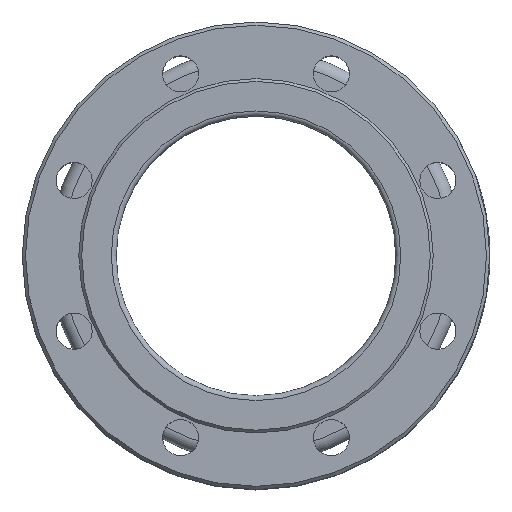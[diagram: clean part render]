
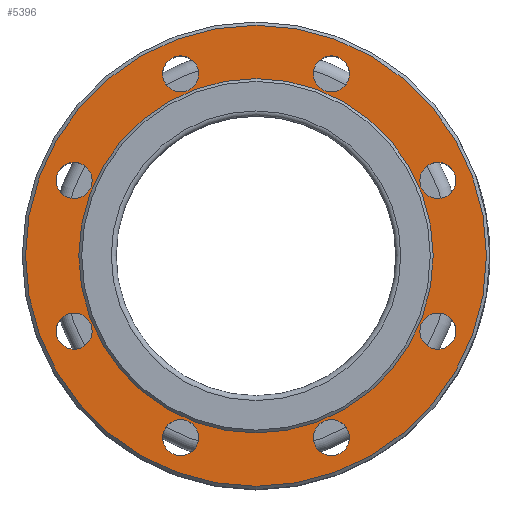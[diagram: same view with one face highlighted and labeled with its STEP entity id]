
A CAD part, top view. The second image highlights one B-rep face of the part: STEP entity #5396.
In plain terms, the highlighted planar face has unit normal (0, 0, 1).
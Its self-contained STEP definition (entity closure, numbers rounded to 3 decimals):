
#1085=FACE_BOUND('',#1690,.T.);
#1086=FACE_BOUND('',#1691,.T.);
#1087=FACE_BOUND('',#1692,.T.);
#1088=FACE_BOUND('',#1693,.T.);
#1089=FACE_BOUND('',#1694,.T.);
#1090=FACE_BOUND('',#1695,.T.);
#1091=FACE_BOUND('',#1696,.T.);
#1092=FACE_BOUND('',#1697,.T.);
#1093=FACE_BOUND('',#1698,.T.);
#1370=FACE_OUTER_BOUND('',#1689,.T.);
#1689=EDGE_LOOP('',(#4497));
#1690=EDGE_LOOP('',(#4498));
#1691=EDGE_LOOP('',(#4499));
#1692=EDGE_LOOP('',(#4500));
#1693=EDGE_LOOP('',(#4501));
#1694=EDGE_LOOP('',(#4502));
#1695=EDGE_LOOP('',(#4503));
#1696=EDGE_LOOP('',(#4504));
#1697=EDGE_LOOP('',(#4505));
#1698=EDGE_LOOP('',(#4506));
#1941=CIRCLE('',#5810,140.5);
#1942=CIRCLE('',#5813,108.);
#1943=CIRCLE('',#5814,11.);
#1944=CIRCLE('',#5815,11.);
#1945=CIRCLE('',#5816,11.);
#1946=CIRCLE('',#5817,11.);
#1947=CIRCLE('',#5818,11.);
#1948=CIRCLE('',#5819,11.);
#1949=CIRCLE('',#5820,11.);
#1950=CIRCLE('',#5821,11.);
#2451=VERTEX_POINT('',#11433);
#2452=VERTEX_POINT('',#11438);
#2453=VERTEX_POINT('',#11440);
#2454=VERTEX_POINT('',#11442);
#2455=VERTEX_POINT('',#11444);
#2456=VERTEX_POINT('',#11446);
#2457=VERTEX_POINT('',#11448);
#2458=VERTEX_POINT('',#11450);
#2459=VERTEX_POINT('',#11452);
#2460=VERTEX_POINT('',#11454);
#3143=EDGE_CURVE('',#2451,#2451,#1941,.T.);
#3145=EDGE_CURVE('',#2452,#2452,#1942,.T.);
#3146=EDGE_CURVE('',#2453,#2453,#1943,.T.);
#3147=EDGE_CURVE('',#2454,#2454,#1944,.T.);
#3148=EDGE_CURVE('',#2455,#2455,#1945,.T.);
#3149=EDGE_CURVE('',#2456,#2456,#1946,.T.);
#3150=EDGE_CURVE('',#2457,#2457,#1947,.T.);
#3151=EDGE_CURVE('',#2458,#2458,#1948,.T.);
#3152=EDGE_CURVE('',#2459,#2459,#1949,.T.);
#3153=EDGE_CURVE('',#2460,#2460,#1950,.T.);
#4497=ORIENTED_EDGE('',*,*,#3143,.T.);
#4498=ORIENTED_EDGE('',*,*,#3145,.T.);
#4499=ORIENTED_EDGE('',*,*,#3146,.F.);
#4500=ORIENTED_EDGE('',*,*,#3147,.F.);
#4501=ORIENTED_EDGE('',*,*,#3148,.F.);
#4502=ORIENTED_EDGE('',*,*,#3149,.F.);
#4503=ORIENTED_EDGE('',*,*,#3150,.F.);
#4504=ORIENTED_EDGE('',*,*,#3151,.F.);
#4505=ORIENTED_EDGE('',*,*,#3152,.F.);
#4506=ORIENTED_EDGE('',*,*,#3153,.F.);
#4782=PLANE('',#5812);
#5396=ADVANCED_FACE('',(#1370,#1085,#1086,#1087,#1088,#1089,#1090,#1091,
#1092,#1093),#4782,.F.);
#5810=AXIS2_PLACEMENT_3D('',#11434,#6928,#6929);
#5812=AXIS2_PLACEMENT_3D('',#11437,#6933,#6934);
#5813=AXIS2_PLACEMENT_3D('',#11439,#6935,#6936);
#5814=AXIS2_PLACEMENT_3D('',#11441,#6937,#6938);
#5815=AXIS2_PLACEMENT_3D('',#11443,#6939,#6940);
#5816=AXIS2_PLACEMENT_3D('',#11445,#6941,#6942);
#5817=AXIS2_PLACEMENT_3D('',#11447,#6943,#6944);
#5818=AXIS2_PLACEMENT_3D('',#11449,#6945,#6946);
#5819=AXIS2_PLACEMENT_3D('',#11451,#6947,#6948);
#5820=AXIS2_PLACEMENT_3D('',#11453,#6949,#6950);
#5821=AXIS2_PLACEMENT_3D('',#11455,#6951,#6952);
#6928=DIRECTION('center_axis',(0.,0.,1.));
#6929=DIRECTION('ref_axis',(0.,-1.,0.));
#6933=DIRECTION('center_axis',(0.,0.,-1.));
#6934=DIRECTION('ref_axis',(-1.,0.,0.));
#6935=DIRECTION('center_axis',(0.,0.,-1.));
#6936=DIRECTION('ref_axis',(1.,0.,0.));
#6937=DIRECTION('center_axis',(0.,0.,1.));
#6938=DIRECTION('ref_axis',(-1.,0.,0.));
#6939=DIRECTION('center_axis',(0.,0.,1.));
#6940=DIRECTION('ref_axis',(-1.,0.,0.));
#6941=DIRECTION('center_axis',(0.,0.,1.));
#6942=DIRECTION('ref_axis',(-1.,0.,0.));
#6943=DIRECTION('center_axis',(0.,0.,1.));
#6944=DIRECTION('ref_axis',(-1.,0.,0.));
#6945=DIRECTION('center_axis',(0.,0.,1.));
#6946=DIRECTION('ref_axis',(-1.,0.,0.));
#6947=DIRECTION('center_axis',(0.,0.,1.));
#6948=DIRECTION('ref_axis',(-1.,0.,0.));
#6949=DIRECTION('center_axis',(0.,0.,1.));
#6950=DIRECTION('ref_axis',(-1.,0.,0.));
#6951=DIRECTION('center_axis',(0.,0.,1.));
#6952=DIRECTION('ref_axis',(-1.,0.,0.));
#11433=CARTESIAN_POINT('',(0.,140.5,72.5));
#11434=CARTESIAN_POINT('Origin',(0.,0.,72.5));
#11437=CARTESIAN_POINT('Origin',(0.,85.25,72.5));
#11438=CARTESIAN_POINT('',(-108.,0.,72.5));
#11439=CARTESIAN_POINT('Origin',(0.,0.,72.5));
#11440=CARTESIAN_POINT('',(-34.922,-110.866,72.5));
#11441=CARTESIAN_POINT('Origin',(-45.922,-110.866,72.5));
#11442=CARTESIAN_POINT('',(121.866,-45.922,72.5));
#11443=CARTESIAN_POINT('Origin',(110.866,-45.922,72.5));
#11444=CARTESIAN_POINT('',(-34.922,110.866,72.5));
#11445=CARTESIAN_POINT('Origin',(-45.922,110.866,72.5));
#11446=CARTESIAN_POINT('',(56.922,110.866,72.5));
#11447=CARTESIAN_POINT('Origin',(45.922,110.866,72.5));
#11448=CARTESIAN_POINT('',(-99.866,-45.922,72.5));
#11449=CARTESIAN_POINT('Origin',(-110.866,-45.922,72.5));
#11450=CARTESIAN_POINT('',(56.922,-110.866,72.5));
#11451=CARTESIAN_POINT('Origin',(45.922,-110.866,72.5));
#11452=CARTESIAN_POINT('',(-99.866,45.922,72.5));
#11453=CARTESIAN_POINT('Origin',(-110.866,45.922,72.5));
#11454=CARTESIAN_POINT('',(121.866,45.922,72.5));
#11455=CARTESIAN_POINT('Origin',(110.866,45.922,72.5));
